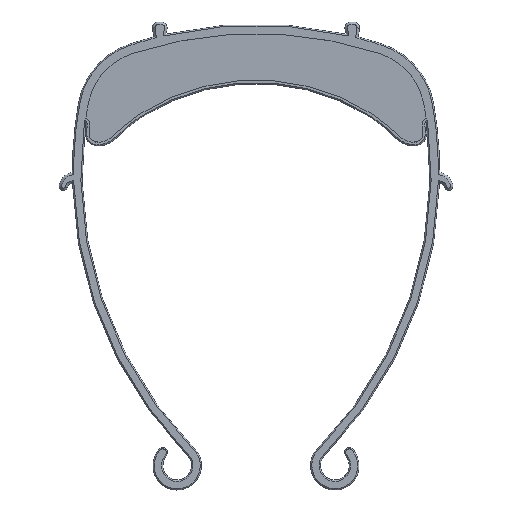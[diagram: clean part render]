
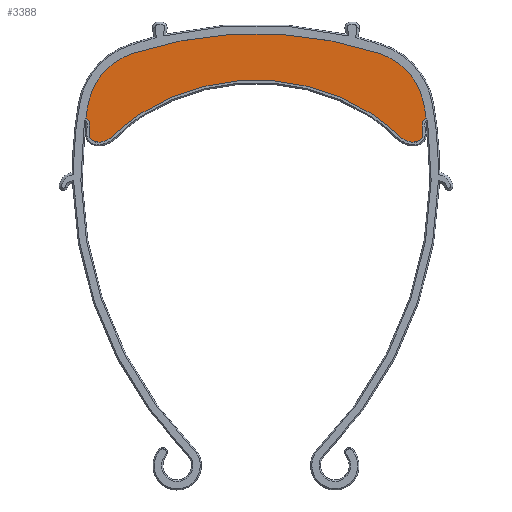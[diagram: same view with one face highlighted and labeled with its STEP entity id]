
A CAD part, top view. The second image highlights one B-rep face of the part: STEP entity #3388.
In plain terms, the highlighted planar face has unit normal (0, 0, 1).
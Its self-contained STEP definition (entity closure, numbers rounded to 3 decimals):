
#900=CARTESIAN_POINT('',(0.016,-82.904,10.6));
#901=DIRECTION('',(0.,0.,1.));
#902=DIRECTION('',(0.539,0.842,0.));
#903=AXIS2_PLACEMENT_3D('',#900,#901,#902);
#905=CARTESIAN_POINT('',(-42.585,-8.711,10.6));
#906=DIRECTION('',(0.,0.,1.));
#907=DIRECTION('',(-0.314,0.949,0.));
#908=AXIS2_PLACEMENT_3D('',#905,#906,#907);
#914=CARTESIAN_POINT('',(90.961,-32.488,10.6));
#915=DIRECTION('',(0.,0.,1.));
#916=DIRECTION('',(-0.985,0.175,0.));
#917=AXIS2_PLACEMENT_3D('',#914,#915,#916);
#941=CARTESIAN_POINT('',(-71.715,-12.031,10.6));
#942=DIRECTION('',(0.,0.,1.));
#943=DIRECTION('',(0.972,0.236,0.));
#944=AXIS2_PLACEMENT_3D('',#941,#942,#943);
#950=CARTESIAN_POINT('',(-48.078,-7.827,10.6));
#951=CARTESIAN_POINT('',(-50.74,-9.533,10.6));
#952=CARTESIAN_POINT('',(-54.415,-12.338,10.6));
#953=CARTESIAN_POINT('',(-58.461,-16.52,10.6));
#954=CARTESIAN_POINT('',(-61.284,-18.627,10.6));
#955=CARTESIAN_POINT('',(-64.664,-19.684,10.6));
#956=CARTESIAN_POINT('',(-66.957,-19.409,10.6));
#957=CARTESIAN_POINT('',(-68.364,-18.276,10.6));
#958=CARTESIAN_POINT('',(-69.024,-17.065,10.6));
#959=CARTESIAN_POINT('',(-69.181,-15.533,10.6));
#960=CARTESIAN_POINT('',(-69.07,-13.946,10.6));
#961=CARTESIAN_POINT('',(-68.906,-12.49,10.6));
#962=CARTESIAN_POINT('',(-68.849,-11.764,10.6));
#963=CARTESIAN_POINT('',(-68.948,-11.359,10.6));
#2135=CARTESIAN_POINT('',(-90.929,-32.488,
10.6));
#2136=DIRECTION('',(0.,0.,-1.));
#2137=DIRECTION('',(0.985,0.175,0.));
#2138=AXIS2_PLACEMENT_3D('',#2135,#2136,#2137);
#2162=CARTESIAN_POINT('',(42.617,-8.71,10.6));
#2163=DIRECTION('',(0.,0.,-1.));
#2164=DIRECTION('',(0.314,0.949,0.));
#2165=AXIS2_PLACEMENT_3D('',#2162,#2163,#2164);
#2171=CARTESIAN_POINT('',(0.016,-137.494,10.6));
#2172=DIRECTION('',(0.,0.,1.));
#2173=DIRECTION('',(0.314,0.949,0.));
#2174=AXIS2_PLACEMENT_3D('',#2171,#2172,#2173);
#2189=CARTESIAN_POINT('',(71.747,-12.031,10.6));
#2190=DIRECTION('',(0.,0.,-1.));
#2191=DIRECTION('',(-0.972,0.236,0.));
#2192=AXIS2_PLACEMENT_3D('',#2189,#2190,#2191);
#2198=CARTESIAN_POINT('',(48.109,-7.827,10.6));
#2199=CARTESIAN_POINT('',(50.772,-9.532,10.6));
#2200=CARTESIAN_POINT('',(54.447,-12.338,10.6));
#2201=CARTESIAN_POINT('',(58.493,-16.52,10.6));
#2202=CARTESIAN_POINT('',(61.316,-18.627,10.6));
#2203=CARTESIAN_POINT('',(64.696,-19.684,10.6));
#2204=CARTESIAN_POINT('',(66.989,-19.409,10.6));
#2205=CARTESIAN_POINT('',(68.396,-18.276,10.6));
#2206=CARTESIAN_POINT('',(69.056,-17.065,10.6));
#2207=CARTESIAN_POINT('',(69.214,-15.533,10.6));
#2208=CARTESIAN_POINT('',(69.102,-13.946,10.6));
#2209=CARTESIAN_POINT('',(68.938,-12.49,10.6));
#2210=CARTESIAN_POINT('',(68.881,-11.764,10.6));
#2211=CARTESIAN_POINT('',(68.98,-11.358,10.6));
#2466=CARTESIAN_POINT('',(-51.176,17.259,10.6));
#2467=CARTESIAN_POINT('',(-69.515,-3.916,10.6));
#2468=VERTEX_POINT('',#2466);
#2469=VERTEX_POINT('',#2467);
#2470=CARTESIAN_POINT('',(51.208,17.259,10.6));
#2471=VERTEX_POINT('',#2470);
#2472=CARTESIAN_POINT('',(69.547,-3.916,10.6));
#2473=VERTEX_POINT('',#2472);
#2474=CARTESIAN_POINT('',(48.109,-7.826,10.6));
#2475=CARTESIAN_POINT('',(-48.078,-7.827,10.6));
#2476=VERTEX_POINT('',#2474);
#2477=VERTEX_POINT('',#2475);
#2800=CARTESIAN_POINT('',(-70.41,-9.5,10.6));
#2801=VERTEX_POINT('',#2800);
#2802=CARTESIAN_POINT('',(70.442,-9.5,10.6));
#2803=VERTEX_POINT('',#2802);
#2804=VERTEX_POINT('',#963);
#2805=VERTEX_POINT('',#2211);
#3362=CARTESIAN_POINT('',(0.,0.,10.6));
#3363=DIRECTION('',(0.,0.,1.));
#3364=DIRECTION('',(1.,0.,0.));
#3365=AXIS2_PLACEMENT_3D('',#3362,#3363,#3364);
#3366=PLANE('',#3365);
#3368=ORIENTED_EDGE('',*,*,#3367,.F.);
#3370=ORIENTED_EDGE('',*,*,#3369,.F.);
#3372=ORIENTED_EDGE('',*,*,#3371,.T.);
#3374=ORIENTED_EDGE('',*,*,#3373,.T.);
#3376=ORIENTED_EDGE('',*,*,#3375,.F.);
#3378=ORIENTED_EDGE('',*,*,#3377,.F.);
#3379=ORIENTED_EDGE('',*,*,#3352,.T.);
#3381=ORIENTED_EDGE('',*,*,#3380,.T.);
#3383=ORIENTED_EDGE('',*,*,#3382,.T.);
#3385=ORIENTED_EDGE('',*,*,#3384,.F.);
#3386=EDGE_LOOP('',(#3368,#3370,#3372,#3374,#3376,#3378,#3379,#3381,#3383,
#3385));
#3387=FACE_OUTER_BOUND('',#3386,.F.);
#3388=ADVANCED_FACE('',(#3387),#3366,.T.);
#904=CIRCLE('',#903,89.16);
#909=CIRCLE('',#908,27.353);
#918=CIRCLE('',#917,163.);
#945=CIRCLE('',#944,2.848);
#964=B_SPLINE_CURVE_WITH_KNOTS('',3,(#950,#951,#952,#953,#954,#955,#956,#957,
#958,#959,#960,#961,#962,#963),.UNSPECIFIED.,.F.,.F.,(4,1,1,1,1,1,1,1,1,1,1,4),(
0.,0.287,0.411,0.535,0.63,
0.725,0.777,0.83,0.872,
0.915,0.957,1.),.UNSPECIFIED.);
#2139=CIRCLE('',#2138,163.);
#2166=CIRCLE('',#2165,27.353);
#2175=CIRCLE('',#2174,163.);
#2193=CIRCLE('',#2192,2.848);
#2212=B_SPLINE_CURVE_WITH_KNOTS('',3,(#2198,#2199,#2200,#2201,#2202,#2203,#2204,
#2205,#2206,#2207,#2208,#2209,#2210,#2211),.UNSPECIFIED.,.F.,.F.,(4,1,1,1,1,1,1,
1,1,1,1,4),(0.,0.287,0.411,0.535,
0.63,0.725,0.777,0.83,
0.872,0.915,0.957,1.),.UNSPECIFIED.);
#3352=EDGE_CURVE('',#2476,#2477,#904,.T.);
#3367=EDGE_CURVE('',#2468,#2469,#909,.T.);
#3369=EDGE_CURVE('',#2471,#2468,#2175,.T.);
#3371=EDGE_CURVE('',#2471,#2473,#2166,.T.);
#3373=EDGE_CURVE('',#2473,#2803,#2139,.T.);
#3375=EDGE_CURVE('',#2805,#2803,#2193,.T.);
#3377=EDGE_CURVE('',#2476,#2805,#2212,.T.);
#3380=EDGE_CURVE('',#2477,#2804,#964,.T.);
#3382=EDGE_CURVE('',#2804,#2801,#945,.T.);
#3384=EDGE_CURVE('',#2469,#2801,#918,.T.);
